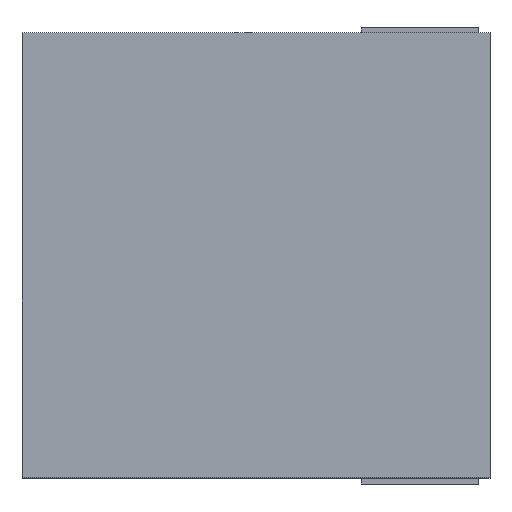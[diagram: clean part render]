
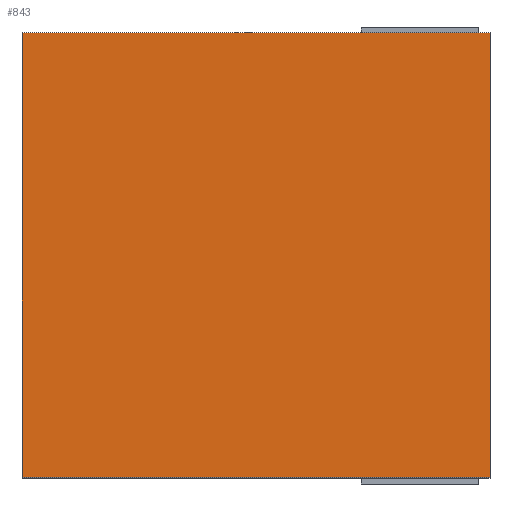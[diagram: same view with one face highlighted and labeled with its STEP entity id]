
A CAD part, top view. The second image highlights one B-rep face of the part: STEP entity #843.
In plain terms, the highlighted planar face has unit normal (0, 0, 1).
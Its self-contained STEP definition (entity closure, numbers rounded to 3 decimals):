
#24 = VERTEX_POINT('',#25);
#25 = CARTESIAN_POINT('',(0.,-38.,115.));
#32 = PLANE('',#33);
#33 = AXIS2_PLACEMENT_3D('',#34,#35,#36);
#34 = CARTESIAN_POINT('',(0.,-38.,113.));
#35 = DIRECTION('',(1.,0.,0.));
#36 = DIRECTION('',(0.,0.,1.));
#44 = PLANE('',#45);
#45 = AXIS2_PLACEMENT_3D('',#46,#47,#48);
#46 = CARTESIAN_POINT('',(0.,-38.,113.));
#47 = DIRECTION('',(0.,1.,0.));
#48 = DIRECTION('',(0.,0.,1.));
#197 = VERTEX_POINT('',#198);
#198 = CARTESIAN_POINT('',(0.,38.,115.));
#212 = PLANE('',#213);
#213 = AXIS2_PLACEMENT_3D('',#214,#215,#216);
#214 = CARTESIAN_POINT('',(0.,38.,113.));
#215 = DIRECTION('',(0.,1.,0.));
#216 = DIRECTION('',(0.,0.,1.));
#224 = EDGE_CURVE('',#24,#197,#225,.T.);
#225 = SURFACE_CURVE('',#226,(#230,#237),.PCURVE_S1.);
#226 = LINE('',#227,#228);
#227 = CARTESIAN_POINT('',(0.,-38.,115.));
#228 = VECTOR('',#229,1.);
#229 = DIRECTION('',(0.,1.,0.));
#230 = PCURVE('',#32,#231);
#231 = DEFINITIONAL_REPRESENTATION('',(#232),#236);
#232 = LINE('',#233,#234);
#233 = CARTESIAN_POINT('',(2.,0.));
#234 = VECTOR('',#235,1.);
#235 = DIRECTION('',(0.,-1.));
#236 = ( GEOMETRIC_REPRESENTATION_CONTEXT(2) 
PARAMETRIC_REPRESENTATION_CONTEXT() REPRESENTATION_CONTEXT('2D SPACE',''
  ) );
#237 = PCURVE('',#238,#243);
#238 = PLANE('',#239);
#239 = AXIS2_PLACEMENT_3D('',#240,#241,#242);
#240 = CARTESIAN_POINT('',(0.,-38.,115.));
#241 = DIRECTION('',(0.,0.,1.));
#242 = DIRECTION('',(1.,0.,0.));
#243 = DEFINITIONAL_REPRESENTATION('',(#244),#248);
#244 = LINE('',#245,#246);
#245 = CARTESIAN_POINT('',(0.,0.));
#246 = VECTOR('',#247,1.);
#247 = DIRECTION('',(0.,1.));
#248 = ( GEOMETRIC_REPRESENTATION_CONTEXT(2) 
PARAMETRIC_REPRESENTATION_CONTEXT() REPRESENTATION_CONTEXT('2D SPACE',''
  ) );
#256 = VERTEX_POINT('',#257);
#257 = CARTESIAN_POINT('',(80.,-38.,115.));
#271 = PLANE('',#272);
#272 = AXIS2_PLACEMENT_3D('',#273,#274,#275);
#273 = CARTESIAN_POINT('',(80.,-38.,113.));
#274 = DIRECTION('',(1.,0.,0.));
#275 = DIRECTION('',(0.,0.,1.));
#361 = EDGE_CURVE('',#24,#256,#362,.T.);
#362 = SURFACE_CURVE('',#363,(#367,#374),.PCURVE_S1.);
#363 = LINE('',#364,#365);
#364 = CARTESIAN_POINT('',(0.,-38.,115.));
#365 = VECTOR('',#366,1.);
#366 = DIRECTION('',(1.,0.,0.));
#367 = PCURVE('',#44,#368);
#368 = DEFINITIONAL_REPRESENTATION('',(#369),#373);
#369 = LINE('',#370,#371);
#370 = CARTESIAN_POINT('',(2.,0.));
#371 = VECTOR('',#372,1.);
#372 = DIRECTION('',(0.,1.));
#373 = ( GEOMETRIC_REPRESENTATION_CONTEXT(2) 
PARAMETRIC_REPRESENTATION_CONTEXT() REPRESENTATION_CONTEXT('2D SPACE',''
  ) );
#374 = PCURVE('',#238,#375);
#375 = DEFINITIONAL_REPRESENTATION('',(#376),#380);
#376 = LINE('',#377,#378);
#377 = CARTESIAN_POINT('',(0.,0.));
#378 = VECTOR('',#379,1.);
#379 = DIRECTION('',(1.,0.));
#380 = ( GEOMETRIC_REPRESENTATION_CONTEXT(2) 
PARAMETRIC_REPRESENTATION_CONTEXT() REPRESENTATION_CONTEXT('2D SPACE',''
  ) );
#748 = VERTEX_POINT('',#749);
#749 = CARTESIAN_POINT('',(80.,38.,115.));
#823 = EDGE_CURVE('',#197,#748,#824,.T.);
#824 = SURFACE_CURVE('',#825,(#829,#836),.PCURVE_S1.);
#825 = LINE('',#826,#827);
#826 = CARTESIAN_POINT('',(0.,38.,115.));
#827 = VECTOR('',#828,1.);
#828 = DIRECTION('',(1.,0.,0.));
#829 = PCURVE('',#212,#830);
#830 = DEFINITIONAL_REPRESENTATION('',(#831),#835);
#831 = LINE('',#832,#833);
#832 = CARTESIAN_POINT('',(2.,0.));
#833 = VECTOR('',#834,1.);
#834 = DIRECTION('',(0.,1.));
#835 = ( GEOMETRIC_REPRESENTATION_CONTEXT(2) 
PARAMETRIC_REPRESENTATION_CONTEXT() REPRESENTATION_CONTEXT('2D SPACE',''
  ) );
#836 = PCURVE('',#238,#837);
#837 = DEFINITIONAL_REPRESENTATION('',(#838),#842);
#838 = LINE('',#839,#840);
#839 = CARTESIAN_POINT('',(0.,76.));
#840 = VECTOR('',#841,1.);
#841 = DIRECTION('',(1.,0.));
#842 = ( GEOMETRIC_REPRESENTATION_CONTEXT(2) 
PARAMETRIC_REPRESENTATION_CONTEXT() REPRESENTATION_CONTEXT('2D SPACE',''
  ) );
#843 = ADVANCED_FACE('',(#844),#238,.T.);
#844 = FACE_BOUND('',#845,.T.);
#845 = EDGE_LOOP('',(#846,#847,#848,#869));
#846 = ORIENTED_EDGE('',*,*,#224,.F.);
#847 = ORIENTED_EDGE('',*,*,#361,.T.);
#848 = ORIENTED_EDGE('',*,*,#849,.T.);
#849 = EDGE_CURVE('',#256,#748,#850,.T.);
#850 = SURFACE_CURVE('',#851,(#855,#862),.PCURVE_S1.);
#851 = LINE('',#852,#853);
#852 = CARTESIAN_POINT('',(80.,-38.,115.));
#853 = VECTOR('',#854,1.);
#854 = DIRECTION('',(0.,1.,0.));
#855 = PCURVE('',#238,#856);
#856 = DEFINITIONAL_REPRESENTATION('',(#857),#861);
#857 = LINE('',#858,#859);
#858 = CARTESIAN_POINT('',(80.,0.));
#859 = VECTOR('',#860,1.);
#860 = DIRECTION('',(0.,1.));
#861 = ( GEOMETRIC_REPRESENTATION_CONTEXT(2) 
PARAMETRIC_REPRESENTATION_CONTEXT() REPRESENTATION_CONTEXT('2D SPACE',''
  ) );
#862 = PCURVE('',#271,#863);
#863 = DEFINITIONAL_REPRESENTATION('',(#864),#868);
#864 = LINE('',#865,#866);
#865 = CARTESIAN_POINT('',(2.,0.));
#866 = VECTOR('',#867,1.);
#867 = DIRECTION('',(0.,-1.));
#868 = ( GEOMETRIC_REPRESENTATION_CONTEXT(2) 
PARAMETRIC_REPRESENTATION_CONTEXT() REPRESENTATION_CONTEXT('2D SPACE',''
  ) );
#869 = ORIENTED_EDGE('',*,*,#823,.F.);
